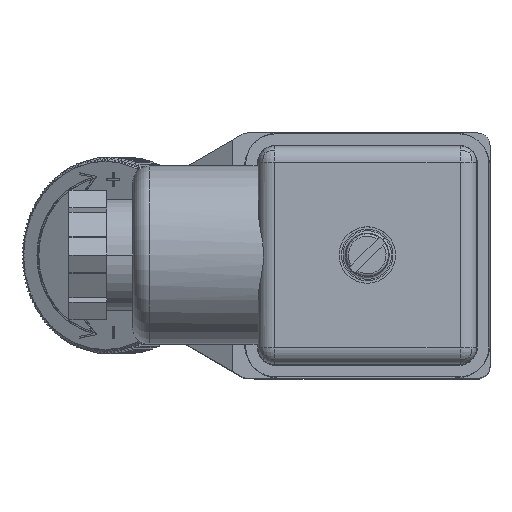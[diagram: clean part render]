
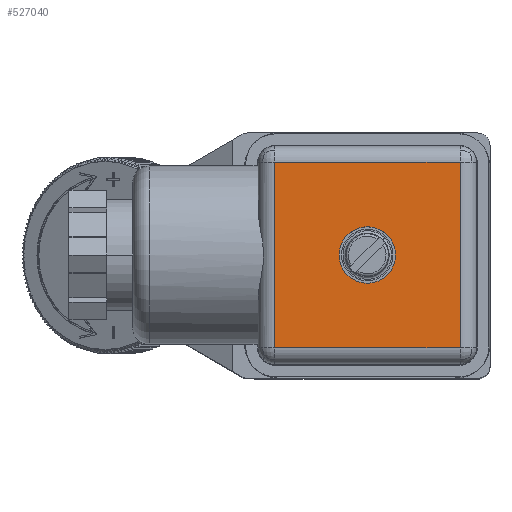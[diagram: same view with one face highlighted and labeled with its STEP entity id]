
A CAD part, top view. The second image highlights one B-rep face of the part: STEP entity #527040.
In plain terms, the highlighted planar face has unit normal (0, 0, 1).
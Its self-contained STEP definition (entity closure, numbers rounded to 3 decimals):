
#486590=CARTESIAN_POINT('',(11.35,-11.35,27.1));
#486600=VERTEX_POINT('',#486590);
#486630=CARTESIAN_POINT('',(11.35,11.35,27.1));
#486640=DIRECTION('',(0.,-1.,0.));
#486650=VECTOR('',#486640,1.);
#486660=LINE('',#486630,#486650);
#486670=CARTESIAN_POINT('',(11.35,11.35,27.1));
#486680=VERTEX_POINT('',#486670);
#486690=EDGE_CURVE('',#486680,#486600,#486660,.T.);
#515340=CARTESIAN_POINT('',(11.35,-11.35,27.1));
#515350=DIRECTION('',(-1.,0.,0.));
#515360=VECTOR('',#515350,1.);
#515370=LINE('',#515340,#515360);
#515380=CARTESIAN_POINT('',(-11.35,-11.35,27.1));
#515390=VERTEX_POINT('',#515380);
#515400=EDGE_CURVE('',#486600,#515390,#515370,.T.);
#525420=CARTESIAN_POINT('',(-11.35,11.35,27.1));
#525430=DIRECTION('',(1.,0.,0.));
#525440=VECTOR('',#525430,1.);
#525450=LINE('',#525420,#525440);
#525460=CARTESIAN_POINT('',(-11.35,11.35,27.1));
#525470=VERTEX_POINT('',#525460);
#525480=EDGE_CURVE('',#525470,#486680,#525450,.T.);
#526730=CARTESIAN_POINT('',(-6.534,7.681,27.1));
#526740=DIRECTION('',(0.,0.,1.));
#526750=DIRECTION('',(1.,0.,0.));
#526760=AXIS2_PLACEMENT_3D('',#526730,#526740,#526750);
#526770=PLANE('',#526760);
#526780=ORIENTED_EDGE('',*,*,#486690,.F.);
#526790=ORIENTED_EDGE('',*,*,#515400,.F.);
#526800=CARTESIAN_POINT('',(-11.35,-11.35,27.1));
#526810=DIRECTION('',(0.,1.,0.));
#526820=VECTOR('',#526810,1.);
#526830=LINE('',#526800,#526820);
#526840=EDGE_CURVE('',#515390,#525470,#526830,.T.);
#526850=ORIENTED_EDGE('',*,*,#526840,.F.);
#526860=ORIENTED_EDGE('',*,*,#525480,.F.);
#526870=EDGE_LOOP('',(#526860,#526850,#526790,#526780));
#526880=FACE_OUTER_BOUND('',#526870,.T.);
#526890=CARTESIAN_POINT('',(0.,0.,27.1));
#526900=DIRECTION('',(0.,-0.,-1.));
#526910=DIRECTION('',(1.,0.,0.));
#526920=AXIS2_PLACEMENT_3D('',#526890,#526900,#526910);
#526930=CIRCLE('',#526920,3.45);
#526940=CARTESIAN_POINT('',(-3.45,0.,27.1));
#526950=VERTEX_POINT('',#526940);
#526960=CARTESIAN_POINT('',(3.45,0.,27.1));
#526970=VERTEX_POINT('',#526960);
#526980=EDGE_CURVE('',#526950,#526970,#526930,.T.);
#526990=ORIENTED_EDGE('',*,*,#526980,.T.);
#527000=EDGE_CURVE('',#526970,#526950,#526930,.T.);
#527010=ORIENTED_EDGE('',*,*,#527000,.T.);
#527020=EDGE_LOOP('',(#527010,#526990));
#527030=FACE_BOUND('',#527020,.T.);
#527040=ADVANCED_FACE('',(#526880,#527030),#526770,.T.);
